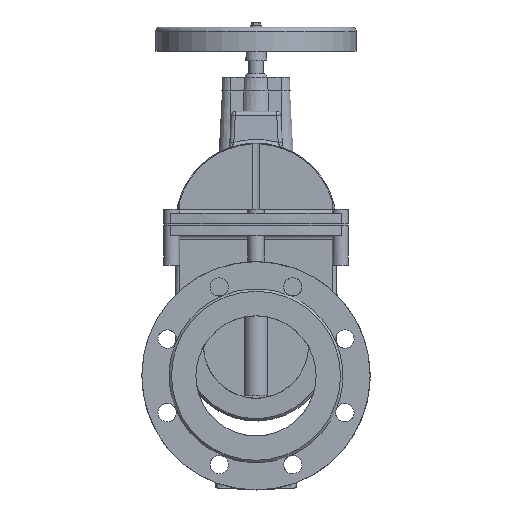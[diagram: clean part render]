
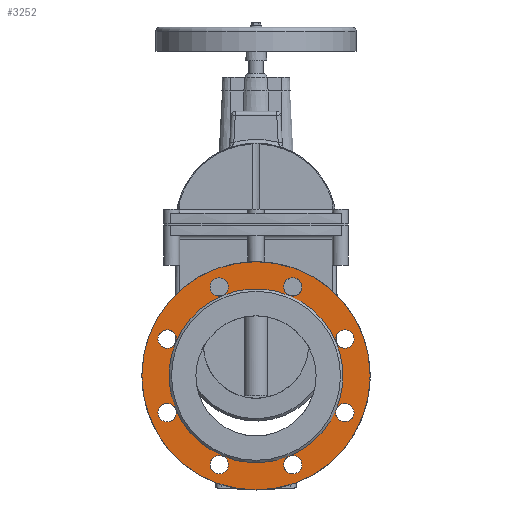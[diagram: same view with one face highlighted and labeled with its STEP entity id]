
A CAD part, left-side view. The second image highlights one B-rep face of the part: STEP entity #3252.
In plain terms, the highlighted planar face has unit normal (-1, 0, 0).
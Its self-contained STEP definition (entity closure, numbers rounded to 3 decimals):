
#3252=ADVANCED_FACE('',(#8318,#8320,#8322,#8324,#8326,#8328,#8330,#8332,#8334,#8336),
#8338,.F.);
#8318=FACE_BOUND('',#8319,.T.);
#8319=EDGE_LOOP('',(#17560));
#8320=FACE_BOUND('',#8321,.T.);
#8321=EDGE_LOOP('',(#17561,#17562));
#8322=FACE_BOUND('',#8323,.T.);
#8323=EDGE_LOOP('',(#17563));
#8324=FACE_BOUND('',#8325,.T.);
#8325=EDGE_LOOP('',(#17564));
#8326=FACE_BOUND('',#8327,.T.);
#8327=EDGE_LOOP('',(#17565,#17566,#17567,#17568,#17569,#17570,#17571));
#8328=FACE_BOUND('',#8329,.T.);
#8329=EDGE_LOOP('',(#17572,#17573));
#8330=FACE_BOUND('',#8331,.T.);
#8331=EDGE_LOOP('',(#17574,#17575));
#8332=FACE_BOUND('',#8333,.T.);
#8333=EDGE_LOOP('',(#17576,#17577));
#8334=FACE_BOUND('',#8335,.T.);
#8335=EDGE_LOOP('',(#17578,#17579));
#8336=FACE_BOUND('',#8337,.T.);
#8337=EDGE_LOOP('',(#17580,#17581));
#8338=PLANE('',#8339);
#8339=AXIS2_PLACEMENT_3D('',#8340,#8341,#8342);
#8340=CARTESIAN_POINT('',(-102.,0.,0.));
#8341=DIRECTION('',(1.,0.,0.));
#8342=DIRECTION('',(0.,1.,0.));
#17560=ORIENTED_EDGE('',*,*,#20263,.F.);
#17561=ORIENTED_EDGE('',*,*,#20271,.T.);
#17562=ORIENTED_EDGE('',*,*,#20272,.T.);
#17563=ORIENTED_EDGE('',*,*,#20270,.T.);
#17564=ORIENTED_EDGE('',*,*,#20283,.T.);
#17565=ORIENTED_EDGE('',*,*,#20369,.F.);
#17566=ORIENTED_EDGE('',*,*,#20370,.F.);
#17567=ORIENTED_EDGE('',*,*,#20371,.F.);
#17568=ORIENTED_EDGE('',*,*,#20372,.F.);
#17569=ORIENTED_EDGE('',*,*,#20373,.F.);
#17570=ORIENTED_EDGE('',*,*,#20374,.F.);
#17571=ORIENTED_EDGE('',*,*,#20375,.F.);
#17572=ORIENTED_EDGE('',*,*,#20282,.T.);
#17573=ORIENTED_EDGE('',*,*,#20281,.T.);
#17574=ORIENTED_EDGE('',*,*,#20280,.T.);
#17575=ORIENTED_EDGE('',*,*,#20279,.T.);
#17576=ORIENTED_EDGE('',*,*,#20278,.T.);
#17577=ORIENTED_EDGE('',*,*,#20277,.T.);
#17578=ORIENTED_EDGE('',*,*,#20276,.T.);
#17579=ORIENTED_EDGE('',*,*,#20275,.T.);
#17580=ORIENTED_EDGE('',*,*,#20273,.T.);
#17581=ORIENTED_EDGE('',*,*,#20274,.T.);
#20263=EDGE_CURVE('',#22924,#22924,#22925,.T.);
#20270=EDGE_CURVE('',#22934,#22934,#22935,.T.);
#20271=EDGE_CURVE('',#22936,#22937,#22938,.T.);
#20272=EDGE_CURVE('',#22937,#22936,#22939,.T.);
#20273=EDGE_CURVE('',#22940,#22941,#22942,.T.);
#20274=EDGE_CURVE('',#22941,#22940,#22943,.T.);
#20275=EDGE_CURVE('',#22944,#22945,#22946,.T.);
#20276=EDGE_CURVE('',#22945,#22944,#22947,.T.);
#20277=EDGE_CURVE('',#22948,#22949,#22950,.T.);
#20278=EDGE_CURVE('',#22949,#22948,#22951,.T.);
#20279=EDGE_CURVE('',#22952,#22953,#22954,.T.);
#20280=EDGE_CURVE('',#22953,#22952,#22955,.T.);
#20281=EDGE_CURVE('',#22956,#22957,#22958,.T.);
#20282=EDGE_CURVE('',#22957,#22956,#22959,.T.);
#20283=EDGE_CURVE('',#22960,#22960,#22961,.T.);
#20369=EDGE_CURVE('',#22953,#22957,#23088,.T.);
#20370=EDGE_CURVE('',#23089,#22953,#23090,.T.);
#20371=EDGE_CURVE('',#22949,#23089,#23091,.T.);
#20372=EDGE_CURVE('',#22945,#22949,#23092,.T.);
#20373=EDGE_CURVE('',#22940,#22945,#23093,.T.);
#20374=EDGE_CURVE('',#22936,#22940,#23094,.T.);
#20375=EDGE_CURVE('',#22957,#22936,#23095,.T.);
#22924=VERTEX_POINT('',#31711);
#22925=CIRCLE('',#31712,142.5);
#22934=VERTEX_POINT('',#31738);
#22935=CIRCLE('',#31739,11.5);
#22936=VERTEX_POINT('',#31743);
#22937=VERTEX_POINT('',#31744);
#22938=CIRCLE('',#31745,11.5);
#22939=CIRCLE('',#31749,11.5);
#22940=VERTEX_POINT('',#31753);
#22941=VERTEX_POINT('',#31754);
#22942=CIRCLE('',#31755,11.5);
#22943=CIRCLE('',#31759,11.5);
#22944=VERTEX_POINT('',#31763);
#22945=VERTEX_POINT('',#31764);
#22946=CIRCLE('',#31765,11.5);
#22947=CIRCLE('',#31769,11.5);
#22948=VERTEX_POINT('',#31773);
#22949=VERTEX_POINT('',#31774);
#22950=CIRCLE('',#31775,11.5);
#22951=CIRCLE('',#31779,11.5);
#22952=VERTEX_POINT('',#31783);
#22953=VERTEX_POINT('',#31784);
#22954=CIRCLE('',#31785,11.5);
#22955=CIRCLE('',#31789,11.5);
#22956=VERTEX_POINT('',#31793);
#22957=VERTEX_POINT('',#31794);
#22958=CIRCLE('',#31795,11.5);
#22959=CIRCLE('',#31799,11.5);
#22960=VERTEX_POINT('',#31803);
#22961=CIRCLE('',#31804,11.5);
#23088=CIRCLE('',#32119,108.5);
#23089=VERTEX_POINT('',#32123);
#23090=CIRCLE('',#32124,108.5);
#23091=CIRCLE('',#32128,108.5);
#23092=CIRCLE('',#32132,108.5);
#23093=CIRCLE('',#32136,108.5);
#23094=CIRCLE('',#32140,108.5);
#23095=CIRCLE('',#32144,108.5);
#31711=CARTESIAN_POINT('',(-102.,142.5,0.));
#31712=AXIS2_PLACEMENT_3D('',#31713,#31714,#31715);
#31713=CARTESIAN_POINT('',(-102.,0.,0.));
#31714=DIRECTION('',(1.,0.,0.));
#31715=DIRECTION('',(0.,1.,0.));
#31738=CARTESIAN_POINT('',(-102.,122.366,45.922));
#31739=AXIS2_PLACEMENT_3D('',#31740,#31741,#31742);
#31740=CARTESIAN_POINT('',(-102.,110.866,45.922));
#31741=DIRECTION('',(1.,0.,0.));
#31742=DIRECTION('',(0.,1.,0.));
#31743=CARTESIAN_POINT('',(-102.,100.241,-41.521));
#31744=CARTESIAN_POINT('',(-102.,118.997,-54.054));
#31745=AXIS2_PLACEMENT_3D('',#31746,#31747,#31748);
#31746=CARTESIAN_POINT('',(-102.,110.866,-45.922));
#31747=DIRECTION('',(1.,0.,0.));
#31748=DIRECTION('',(0.,-0.924,0.383));
#31749=AXIS2_PLACEMENT_3D('',#31750,#31751,#31752);
#31750=CARTESIAN_POINT('',(-102.,110.866,-45.922));
#31751=DIRECTION('',(1.,0.,0.));
#31752=DIRECTION('',(0.,0.707,-0.707));
#31753=CARTESIAN_POINT('',(-102.,41.521,-100.241));
#31754=CARTESIAN_POINT('',(-102.,45.922,-122.366));
#31755=AXIS2_PLACEMENT_3D('',#31756,#31757,#31758);
#31756=CARTESIAN_POINT('',(-102.,45.922,-110.866));
#31757=DIRECTION('',(1.,0.,0.));
#31758=DIRECTION('',(0.,-0.383,0.924));
#31759=AXIS2_PLACEMENT_3D('',#31760,#31761,#31762);
#31760=CARTESIAN_POINT('',(-102.,45.922,-110.866));
#31761=DIRECTION('',(1.,0.,0.));
#31762=DIRECTION('',(0.,0.,-1.));
#31763=CARTESIAN_POINT('',(-102.,-54.054,-118.997));
#31764=CARTESIAN_POINT('',(-102.,-41.521,-100.241));
#31765=AXIS2_PLACEMENT_3D('',#31766,#31767,#31768);
#31766=CARTESIAN_POINT('',(-102.,-45.922,-110.866));
#31767=DIRECTION('',(1.,0.,0.));
#31768=DIRECTION('',(0.,-0.707,-0.707));
#31769=AXIS2_PLACEMENT_3D('',#31770,#31771,#31772);
#31770=CARTESIAN_POINT('',(-102.,-45.922,-110.866));
#31771=DIRECTION('',(1.,0.,0.));
#31772=DIRECTION('',(0.,0.383,0.924));
#31773=CARTESIAN_POINT('',(-102.,-122.366,-45.922));
#31774=CARTESIAN_POINT('',(-102.,-100.241,-41.521));
#31775=AXIS2_PLACEMENT_3D('',#31776,#31777,#31778);
#31776=CARTESIAN_POINT('',(-102.,-110.866,-45.922));
#31777=DIRECTION('',(1.,0.,0.));
#31778=DIRECTION('',(0.,-1.,0.));
#31779=AXIS2_PLACEMENT_3D('',#31780,#31781,#31782);
#31780=CARTESIAN_POINT('',(-102.,-110.866,-45.922));
#31781=DIRECTION('',(1.,0.,0.));
#31782=DIRECTION('',(0.,0.924,0.383));
#31783=CARTESIAN_POINT('',(-102.,-118.997,54.054));
#31784=CARTESIAN_POINT('',(-102.,-100.241,41.521));
#31785=AXIS2_PLACEMENT_3D('',#31786,#31787,#31788);
#31786=CARTESIAN_POINT('',(-102.,-110.866,45.922));
#31787=DIRECTION('',(1.,0.,0.));
#31788=DIRECTION('',(0.,-0.707,0.707));
#31789=AXIS2_PLACEMENT_3D('',#31790,#31791,#31792);
#31790=CARTESIAN_POINT('',(-102.,-110.866,45.922));
#31791=DIRECTION('',(1.,0.,0.));
#31792=DIRECTION('',(0.,0.924,-0.383));
#31793=CARTESIAN_POINT('',(-102.,-45.922,122.366));
#31794=CARTESIAN_POINT('',(-102.,-41.521,100.241));
#31795=AXIS2_PLACEMENT_3D('',#31796,#31797,#31798);
#31796=CARTESIAN_POINT('',(-102.,-45.922,110.866));
#31797=DIRECTION('',(1.,0.,0.));
#31798=DIRECTION('',(0.,0.,1.));
#31799=AXIS2_PLACEMENT_3D('',#31800,#31801,#31802);
#31800=CARTESIAN_POINT('',(-102.,-45.922,110.866));
#31801=DIRECTION('',(1.,0.,0.));
#31802=DIRECTION('',(0.,0.383,-0.924));
#31803=CARTESIAN_POINT('',(-102.,54.054,118.997));
#31804=AXIS2_PLACEMENT_3D('',#31805,#31806,#31807);
#31805=CARTESIAN_POINT('',(-102.,45.922,110.866));
#31806=DIRECTION('',(1.,0.,0.));
#31807=DIRECTION('',(0.,0.707,0.707));
#32119=AXIS2_PLACEMENT_3D('',#32120,#32121,#32122);
#32120=CARTESIAN_POINT('',(-102.,0.,0.));
#32121=DIRECTION('',(-1.,0.,0.));
#32122=DIRECTION('',(0.,-0.924,0.383));
#32123=CARTESIAN_POINT('',(-102.,-108.5,0.));
#32124=AXIS2_PLACEMENT_3D('',#32125,#32126,#32127);
#32125=CARTESIAN_POINT('',(-102.,0.,0.));
#32126=DIRECTION('',(-1.,0.,0.));
#32127=DIRECTION('',(0.,-1.,0.));
#32128=AXIS2_PLACEMENT_3D('',#32129,#32130,#32131);
#32129=CARTESIAN_POINT('',(-102.,0.,0.));
#32130=DIRECTION('',(-1.,0.,0.));
#32131=DIRECTION('',(0.,-0.924,-0.383));
#32132=AXIS2_PLACEMENT_3D('',#32133,#32134,#32135);
#32133=CARTESIAN_POINT('',(-102.,0.,0.));
#32134=DIRECTION('',(-1.,0.,0.));
#32135=DIRECTION('',(0.,-0.383,-0.924));
#32136=AXIS2_PLACEMENT_3D('',#32137,#32138,#32139);
#32137=CARTESIAN_POINT('',(-102.,0.,0.));
#32138=DIRECTION('',(-1.,0.,0.));
#32139=DIRECTION('',(0.,0.383,-0.924));
#32140=AXIS2_PLACEMENT_3D('',#32141,#32142,#32143);
#32141=CARTESIAN_POINT('',(-102.,0.,0.));
#32142=DIRECTION('',(-1.,0.,0.));
#32143=DIRECTION('',(0.,0.924,-0.383));
#32144=AXIS2_PLACEMENT_3D('',#32145,#32146,#32147);
#32145=CARTESIAN_POINT('',(-102.,0.,0.));
#32146=DIRECTION('',(-1.,0.,0.));
#32147=DIRECTION('',(0.,-0.383,0.924));
